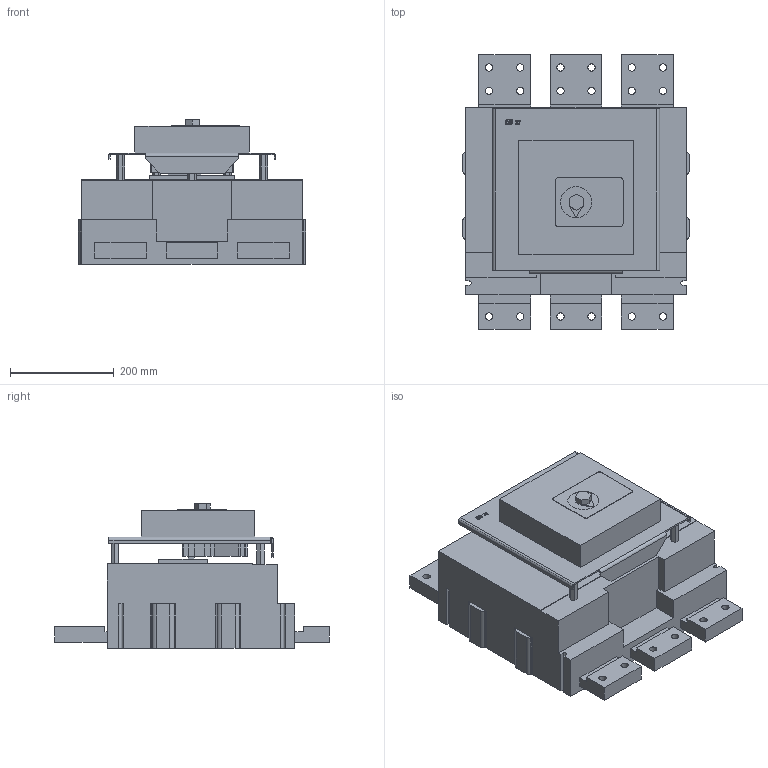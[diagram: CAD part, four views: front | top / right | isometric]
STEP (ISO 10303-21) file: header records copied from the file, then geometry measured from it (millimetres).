
FILE_DESCRIPTION (( 'STEP AP214' ), '1' );
FILE_NAME ('ÂÀ 56-43 ñ ýëåêòðîìàãíèòíûì ïðèâîäîì 2000À.STEP', '2023-02-13T06:30:32', ( '' ), ( '' ), 'SwSTEP 2.0', 'SolidWorks 2018', '' );
FILE_SCHEMA (( 'AUTOMOTIVE_DESIGN' ));
Length unit declared in the file: millimetre
Products named in the file (1): ÂÀ 56-43 ñ ýëåêòðîìàãíèòíûì ïðèâîäîì 2000À
Bounding box: 438 x 530 x 279.3 mm (x, y, z)
Volume: 28496229.3 mm3; surface area: 1046359.4 mm2
Topology: 1 solids, 1 shells, 270 faces, 815 edges, 566 vertices
Faces by surface type: plane 212, cylinder 58
Full cylindrical faces by diameter (mm): 14 x18, 60 x1
Entity records: 9450 total; most frequent: CARTESIAN_POINT 2033, ORIENTED_EDGE 1556, DIRECTION 1407, EDGE_CURVE 778, VECTOR 633, LINE 633, VERTEX_POINT 548, AXIS2_PLACEMENT_3D 387
